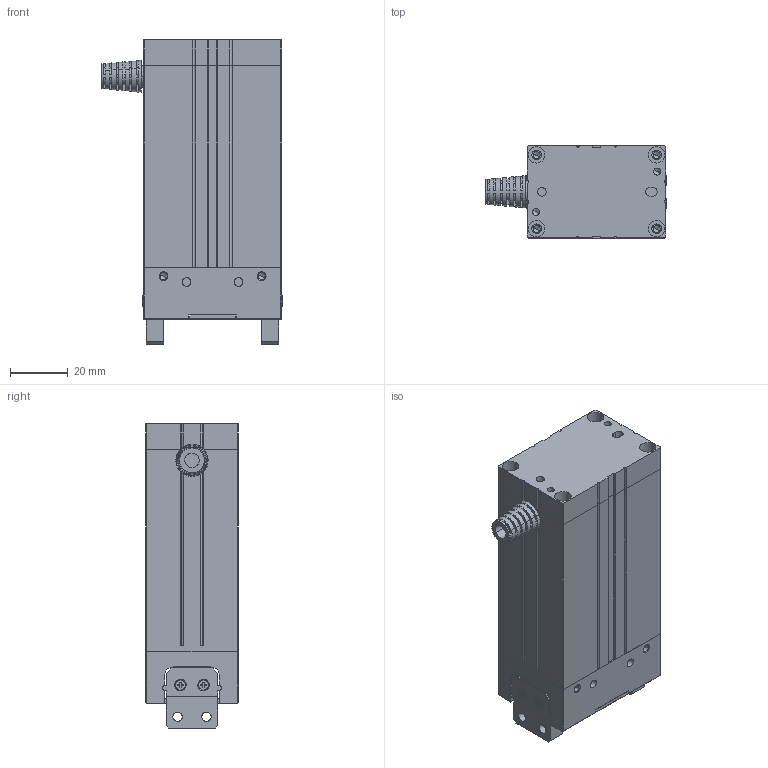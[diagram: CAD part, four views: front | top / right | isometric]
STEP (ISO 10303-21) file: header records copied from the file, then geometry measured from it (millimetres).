
FILE_DESCRIPTION(('CATIA V5 STEP Exchange'),'2;1');
FILE_NAME('F:\工作文件GP\EFG\EFG对外资料\EFG-12\EFG-12.stp','2018-08-08T12:26:28+00:00',('none'),('none'),'CATIA Version 5 Release 20 GA (IN-10)','CATIA V5 STEP AP203','none');
FILE_SCHEMA(('CONFIG_CONTROL_DESIGN'));
Length unit declared in the file: millimetre
Products named in the file (2): EFG-12; Z-200-0004-02
Assembly tree (18 placements, depth 3):
  EFG-12
    Z-200-0004-02
      #66
      #3142  x2
      #4394
      #5067  x2
      #5783  x8
    #6662
    #9608
    #12422
Bounding box: 62.7 x 32 x 105.6 mm (x, y, z)
Volume: 72636.3 mm3; surface area: 46830.3 mm2
Topology: 17 solids, 17 shells, 818 faces, 2136 edges, 1370 vertices
Faces by surface type: plane 449, cylinder 267, cone 102
Entity records: 16457 total; most frequent: CARTESIAN_POINT 3064, ORIENTED_EDGE 2972, DIRECTION 2185, EDGE_CURVE 1486, VERTEX_POINT 978, VECTOR 938, LINE 938, AXIS2_PLACEMENT_3D 873
